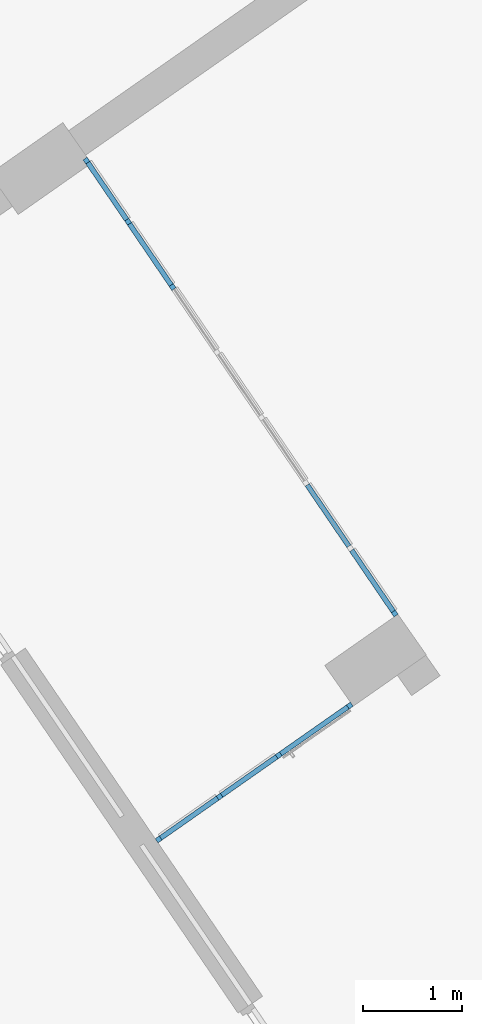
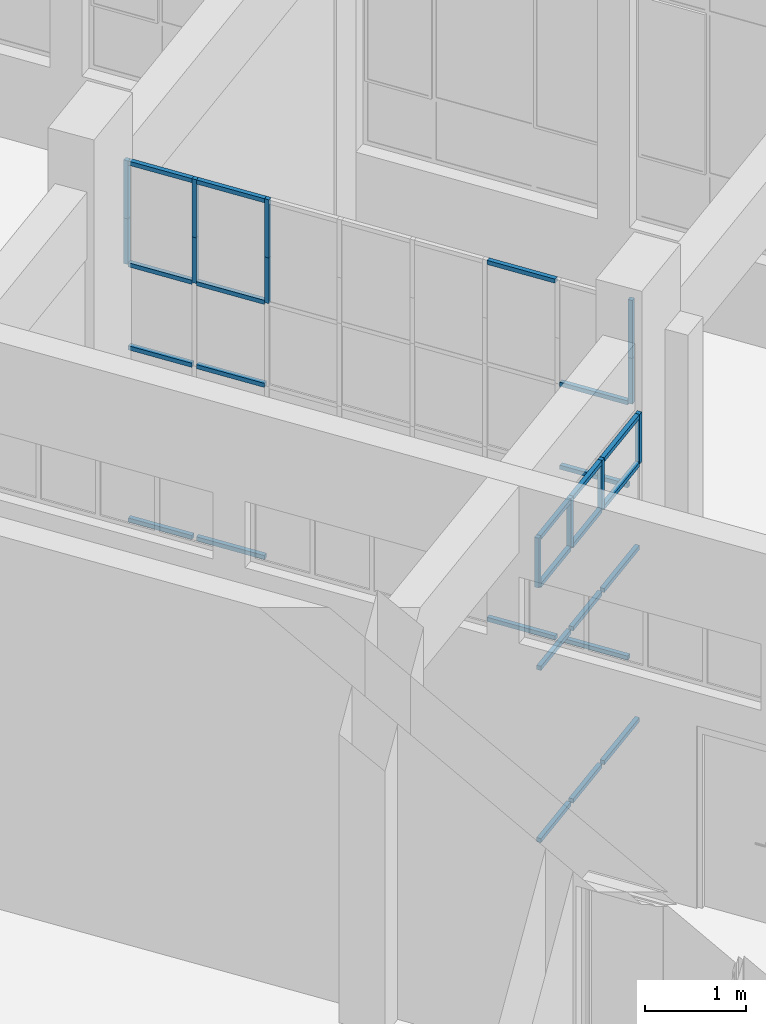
# One storey, part 29 of 157: 37 members, 2 elements without a shape of their own.
"""IFC2X3 building model written with IfcOpenShell, lengths in millimetres."""

from ifc_helpers import new_model, entity, si_unit, converted_unit, derived_unit, direction, frame, origin, origin_2d_with_axis, place, context, subcontext, project, spatial, rectangle, extrude, source, transform, mapped, material, type_object, type_shapes, element, aggregate, save


model = new_model("IFC2X3")

# Units and contexts
model_context = context("Model", 3, precision=0.01, world=origin(), true_north=direction((6.123031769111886e-17, 1.0)))
body_context = subcontext(model_context, "Body", "Model", "MODEL_VIEW")
ifc_project = project(units=[si_unit("LENGTHUNIT", "METRE", prefix="MILLI"), si_unit("AREAUNIT", "SQUARE_METRE"), si_unit("VOLUMEUNIT", "CUBIC_METRE"), converted_unit("PLANEANGLEUNIT", "DEGREE", entity("IfcRatioMeasure", 0.017453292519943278), si_unit("PLANEANGLEUNIT", "RADIAN"), dimensions=[0, 0, 0, 0, 0, 0, 0]), si_unit("MASSUNIT", "GRAM", prefix="KILO"), derived_unit("MASSDENSITYUNIT", [(si_unit("MASSUNIT", "GRAM", prefix="KILO"), 1), (si_unit("LENGTHUNIT", "METRE"), -3)]), derived_unit("MOMENTOFINERTIAUNIT", [(si_unit("LENGTHUNIT", "METRE"), 4)]), si_unit("TIMEUNIT", "SECOND"), si_unit("FREQUENCYUNIT", "HERTZ"), si_unit("THERMODYNAMICTEMPERATUREUNIT", "DEGREE_CELSIUS"), derived_unit("THERMALTRANSMITTANCEUNIT", [(si_unit("MASSUNIT", "GRAM", prefix="KILO"), 1), (si_unit("THERMODYNAMICTEMPERATUREUNIT", "KELVIN"), -1), (si_unit("TIMEUNIT", "SECOND"), -3)]), derived_unit("THERMALCONDUCTANCEUNIT", [(si_unit("MASSUNIT", "GRAM", prefix="KILO"), 1), (si_unit("LENGTHUNIT", "METRE"), 1), (si_unit("THERMODYNAMICTEMPERATUREUNIT", "KELVIN"), -1), (si_unit("TIMEUNIT", "SECOND"), -3)]), derived_unit("VOLUMETRICFLOWRATEUNIT", [(si_unit("LENGTHUNIT", "METRE"), 3), (si_unit("TIMEUNIT", "SECOND"), -1)]), derived_unit("MASSFLOWRATEUNIT", [(si_unit("MASSUNIT", "GRAM", prefix="KILO"), 1), (si_unit("TIMEUNIT", "SECOND"), -1)]), derived_unit("ROTATIONALFREQUENCYUNIT", [(si_unit("TIMEUNIT", "SECOND"), -1)]), si_unit("ELECTRICCURRENTUNIT", "AMPERE"), si_unit("ELECTRICVOLTAGEUNIT", "VOLT"), si_unit("POWERUNIT", "WATT"), converted_unit("FORCEUNIT", "KIP", entity("IfcRatioMeasure", 2.088543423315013e-05), si_unit("FORCEUNIT", "NEWTON"), dimensions=[1, 1, -2, 0, 0, 0, 0]), si_unit("ILLUMINANCEUNIT", "LUX"), si_unit("LUMINOUSFLUXUNIT", "LUMEN"), si_unit("LUMINOUSINTENSITYUNIT", "CANDELA"), derived_unit("USERDEFINED", [(si_unit("MASSUNIT", "GRAM", prefix="KILO"), -1), (si_unit("LENGTHUNIT", "METRE"), -2), (si_unit("TIMEUNIT", "SECOND"), 3), (si_unit("LUMINOUSFLUXUNIT", "LUMEN"), 1)]), derived_unit("USERDEFINED", [(si_unit("MASSUNIT", "GRAM", prefix="KILO"), 1), (si_unit("LENGTHUNIT", "METRE"), 3), (si_unit("TIMEUNIT", "SECOND"), -3), (si_unit("ELECTRICCURRENTUNIT", "AMPERE"), -2)]), derived_unit("USERDEFINED", [(si_unit("LENGTHUNIT", "METRE"), 2), (si_unit("TIMEUNIT", "SECOND"), -2)]), derived_unit("SOUNDPOWERUNIT", [(si_unit("MASSUNIT", "GRAM", prefix="KILO"), 1), (si_unit("LENGTHUNIT", "METRE"), 2), (si_unit("TIMEUNIT", "SECOND"), -3)]), derived_unit("SOUNDPRESSUREUNIT", [(si_unit("MASSUNIT", "GRAM", prefix="KILO"), 1), (si_unit("LENGTHUNIT", "METRE"), -1), (si_unit("TIMEUNIT", "SECOND"), -2)]), derived_unit("LINEARVELOCITYUNIT", [(si_unit("LENGTHUNIT", "METRE"), 1), (si_unit("TIMEUNIT", "SECOND"), -1)]), si_unit("PRESSUREUNIT", "PASCAL"), derived_unit("USERDEFINED", [(si_unit("LENGTHUNIT", "METRE"), -2), (si_unit("MASSUNIT", "GRAM", prefix="KILO"), 1), (si_unit("TIMEUNIT", "SECOND"), -2)]), derived_unit("LINEARFORCEUNIT", [(si_unit("MASSUNIT", "GRAM", prefix="KILO"), 1), (si_unit("LENGTHUNIT", "METRE"), 1), (si_unit("TIMEUNIT", "SECOND"), -2), (si_unit("LENGTHUNIT", "METRE"), -1)]), derived_unit("PLANARFORCEUNIT", [(si_unit("MASSUNIT", "GRAM", prefix="KILO"), 1), (si_unit("LENGTHUNIT", "METRE"), 1), (si_unit("TIMEUNIT", "SECOND"), -2), (si_unit("LENGTHUNIT", "METRE"), -2)]), derived_unit("SPECIFICHEATCAPACITYUNIT", [(si_unit("LENGTHUNIT", "METRE"), 2), (si_unit("TIMEUNIT", "SECOND"), -2), (si_unit("THERMODYNAMICTEMPERATUREUNIT", "KELVIN"), -1)]), derived_unit("VAPORPERMEABILITYUNIT", [(si_unit("TIMEUNIT", "SECOND"), 1), (si_unit("LENGTHUNIT", "METRE"), -1)]), derived_unit("DYNAMICVISCOSITYUNIT", [(si_unit("MASSUNIT", "GRAM", prefix="KILO"), 1), (si_unit("LENGTHUNIT", "METRE"), -1), (si_unit("TIMEUNIT", "SECOND"), -1)]), derived_unit("THERMALEXPANSIONCOEFFICIENTUNIT", [(si_unit("THERMODYNAMICTEMPERATUREUNIT", "KELVIN"), -1)])], contexts=[model_context])

# Site, building, storey
site_placement = place(None, frame((0.0, 0.0, 0.0), z_axis=(0.0, 0.0, 1.0), x_axis=(0.8191520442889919, 0.5735764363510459, 0.0)))
site = spatial("IfcSite", under=ifc_project, at=site_placement, Name="Default", CompositionType="ELEMENT")
building_placement = place(site_placement, origin())
building = spatial("IfcBuilding", under=site, at=building_placement, CompositionType="ELEMENT")
storey_placement = place(building_placement, origin())
storey = spatial("IfcBuildingStorey", under=building, at=storey_placement, Name="1.EG +0.00", CompositionType="ELEMENT", Elevation=-4.331468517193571e-12)

# Curtain wall, members
curtain_wall_type = type_object("IfcCurtainWallType", Name="Curtain Wall:Curtain_Wall_CJC_Int5", PredefinedType="NOTDEFINED")
curtain_wall_1_placement = place(storey_placement, origin())
curtain_wall_1 = element("IfcCurtainWall", 1, at=curtain_wall_1_placement, inside=storey, type_object=curtain_wall_type, Name="Curtain Wall:Curtain_Wall_CJC_Int5", ObjectType="Curtain Wall:Curtain_Wall_CJC_Int5")
ifc_material = material(Name="Aluminium")
member_type_1 = type_object("IfcMemberType", Name="Rectangular Mullion:5x5", PredefinedType="MULLION", material=ifc_material)
shared_shape_1 = source(origin(), body_context, "Body", "SweptSolid", [
    extrude(rectangle(XDim=50.000000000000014, YDim=50.0, at=origin_2d_with_axis()), frame((-25.0, 0.0, -696.4297457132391), z_axis=(0.0, 0.0, 1.0), x_axis=(0.0, -1.0, 0.0)), (0.0, 0.0, 1.0), 696.4297457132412),
])
type_shapes(member_type_1, [shared_shape_1])
member_1_placement = place(curtain_wall_1_placement, frame((-211035.4046825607, 73171.3633481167, 4350.0), z_axis=(0.013317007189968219, 0.9999113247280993, 0.0), x_axis=(0.0, 0.0, 1.0)))
member_1 = element("IfcMember", 2, at=member_1_placement, type_object=member_type_1, material=ifc_material, Name="Rectangular Mullion:5x5", ObjectType="Rectangular Mullion:5x5", context=body_context, shape_type="MappedRepresentation", body=[
    mapped(shared_shape_1, transform((0.0, 0.0, 0.0), scale=1.0)),
])
member_type_2 = type_object("IfcMemberType", Name="Rectangular Mullion:5x5", PredefinedType="MULLION", material=ifc_material)
shared_shape_2 = source(origin(), body_context, "Body", "SweptSolid", [
    extrude(rectangle(XDim=50.000000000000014, YDim=50.0, at=origin_2d_with_axis()), frame((-25.0, 0.0, -746.4297457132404), z_axis=(0.0, 0.0, 1.0), x_axis=(0.0, -1.0, 0.0)), (0.0, 0.0, 1.0), 746.4297457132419),
])
type_shapes(member_type_2, [shared_shape_2])
member_2_placement = place(curtain_wall_1_placement, frame((-211108.3154063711, 67696.84062749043, 0.0), z_axis=(-0.01331700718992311, -0.9999113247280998, 0.0), x_axis=(0.0, 0.0, -1.0)))
member_2 = element("IfcMember", 3, at=member_2_placement, type_object=member_type_2, material=ifc_material, Name="Rectangular Mullion:5x5", ObjectType="Rectangular Mullion:5x5", context=body_context, shape_type="MappedRepresentation", body=[
    mapped(shared_shape_2, transform((0.0, 0.0, 0.0), scale=1.0)),
])
member_3_placement = place(curtain_wall_1_placement, frame((-211055.28510313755, 71678.63623671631, 0.0), z_axis=(-0.013317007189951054, -0.9999113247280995, 0.0), x_axis=(0.0, 0.0, -1.0)))
member_3 = element("IfcMember", 4, at=member_3_placement, type_object=member_type_2, material=ifc_material, Name="Rectangular Mullion:5x5", ObjectType="Rectangular Mullion:5x5", context=body_context, shape_type="MappedRepresentation", body=[
    mapped(shared_shape_2, transform((0.0, 0.0, 0.0), scale=1.0)),
])
member_4_placement = place(curtain_wall_1_placement, frame((-211097.70934572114, 68493.19974957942, 0.0), z_axis=(-0.013317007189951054, -0.9999113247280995, 0.0), x_axis=(0.0, 0.0, -1.0)))
member_4 = element("IfcMember", 5, at=member_4_placement, type_object=member_type_2, material=ifc_material, Name="Rectangular Mullion:5x5", ObjectType="Rectangular Mullion:5x5", context=body_context, shape_type="MappedRepresentation", body=[
    mapped(shared_shape_2, transform((0.0, 0.0, 0.0), scale=1.0)),
])
member_type_3 = type_object("IfcMemberType", Name="Rectangular Mullion:5x5", PredefinedType="MULLION", material=ifc_material)
shared_shape_3 = source(origin(), body_context, "Body", "SweptSolid", [
    extrude(rectangle(XDim=50.000000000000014, YDim=50.0, at=origin_2d_with_axis()), frame((-25.0, 0.0, -700.0), z_axis=(0.0, 0.0, 1.0), x_axis=(0.0, -1.0, 0.0)), (0.0, 0.0, 1.0), 699.9999999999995),
])
type_shapes(member_type_3, [shared_shape_3])
member_5_placement = place(curtain_wall_1_placement, frame((-211108.98125673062, 67646.84506125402, 4350.0), z_axis=(0.0, 0.0, 1.0), x_axis=(-0.013317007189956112, -0.9999113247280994, 0.0)))
member_5 = element("IfcMember", 6, at=member_5_placement, type_object=member_type_3, material=ifc_material, Name="Rectangular Mullion:5x5", ObjectType="Rectangular Mullion:5x5", context=body_context, shape_type="MappedRepresentation", body=[
    mapped(shared_shape_3, transform((0.0, 0.0, 0.0), scale=1.0)),
])
member_type_4 = type_object("IfcMemberType", Name="Rectangular Mullion:5x5", PredefinedType="MULLION", material=ifc_material)
shared_shape_4 = source(origin(), body_context, "Body", "SweptSolid", [
    extrude(rectangle(XDim=50.000000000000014, YDim=50.0, at=origin_2d_with_axis()), frame((-25.0, 0.0, -746.4297454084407), z_axis=(0.0, 0.0, 1.0), x_axis=(0.0, -1.0, 0.0)), (0.0, 0.0, 1.0), 746.4297454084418),
])
type_shapes(member_type_4, [shared_shape_4])
member_6_placement = place(curtain_wall_1_placement, frame((-211045.34489285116, 72424.99979226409, 4350.0), z_axis=(0.013317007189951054, 0.9999113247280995, 0.0), x_axis=(0.0, 0.0, 1.0)))
member_6 = element("IfcMember", 7, at=member_6_placement, type_object=member_type_4, material=ifc_material, Name="Rectangular Mullion:5x5", ObjectType="Rectangular Mullion:5x5", context=body_context, shape_type="MappedRepresentation", body=[
    mapped(shared_shape_4, transform((0.0, 0.0, 0.0), scale=1.0)),
])
member_7_placement = place(curtain_wall_1_placement, frame((-211087.76913543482, 69239.56330512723, 4350.0), z_axis=(0.013317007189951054, 0.9999113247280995, 0.0), x_axis=(0.0, 0.0, 1.0)))
member_7 = element("IfcMember", 8, at=member_7_placement, type_object=member_type_4, material=ifc_material, Name="Rectangular Mullion:5x5", ObjectType="Rectangular Mullion:5x5", context=body_context, shape_type="MappedRepresentation", body=[
    mapped(shared_shape_4, transform((0.0, 0.0, 0.0), scale=1.0)),
])
member_type_5 = type_object("IfcMemberType", Name="Rectangular Mullion:5x5", PredefinedType="MULLION", material=ifc_material)
shared_shape_5 = source(origin(), body_context, "Body", "SweptSolid", [
    extrude(rectangle(XDim=50.0, YDim=50.0, at=origin_2d_with_axis()), frame((-25.0, 0.0, -696.429745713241), z_axis=(0.0, 0.0, 1.0), x_axis=(0.0, -1.0, 0.0)), (0.0, 0.0, 1.0), 696.4297457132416),
])
type_shapes(member_type_5, [shared_shape_5])
member_8_placement = place(curtain_wall_1_placement, frame((-211044.67904249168, 72474.99535850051, 0.0), z_axis=(-0.013317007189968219, -0.9999113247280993, 0.0), x_axis=(0.0, 0.0, -1.0)))
member_8 = element("IfcMember", 9, at=member_8_placement, type_object=member_type_5, material=ifc_material, Name="Rectangular Mullion:5x5", ObjectType="Rectangular Mullion:5x5", context=body_context, shape_type="MappedRepresentation", body=[
    mapped(shared_shape_5, transform((0.0, 0.0, 0.0), scale=1.0)),
])
member_type_6 = type_object("IfcMemberType", Name="Rectangular Mullion:5x5", PredefinedType="MULLION", material=ifc_material)
shared_shape_6 = source(origin(), body_context, "Body", "SweptSolid", [
    extrude(rectangle(XDim=50.0, YDim=50.0, at=origin_2d_with_axis()), frame((-25.0, 0.0, -550.0), z_axis=(0.0, 0.0, 1.0), x_axis=(0.0, -1.0, 0.0)), (0.0, 0.0, 1.0), 550.0000000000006),
])
type_shapes(member_type_6, [shared_shape_6])
member_9_placement = place(curtain_wall_1_placement, frame((-211034.7388322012, 73221.3589143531, 3100.0), z_axis=(0.0, 0.0, -1.0), x_axis=(0.013317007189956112, 0.9999113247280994, 0.0)))
member_9 = element("IfcMember", 10, at=member_9_placement, type_object=member_type_6, material=ifc_material, Name="Rectangular Mullion:5x5", ObjectType="Rectangular Mullion:5x5", context=body_context, shape_type="MappedRepresentation", body=[
    mapped(shared_shape_6, transform((0.0, 0.0, 0.0), scale=1.0)),
])
member_type_7 = type_object("IfcMemberType", Name="Rectangular Mullion:5x5", PredefinedType="MULLION", material=ifc_material)
shared_shape_7 = source(origin(), body_context, "Body", "SweptSolid", [
    extrude(rectangle(XDim=50.0, YDim=50.0, at=origin_2d_with_axis()), frame((-25.0, 0.0, -700.0), z_axis=(0.0, 0.0, 1.0), x_axis=(0.0, -1.0, 0.0)), (0.0, 0.0, 1.0), 699.9999999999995),
])
type_shapes(member_type_7, [shared_shape_7])
member_10_placement = place(curtain_wall_1_placement, frame((-211034.7388322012, 73221.3589143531, 3650.0), z_axis=(0.0, 0.0, -1.0), x_axis=(0.013317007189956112, 0.9999113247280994, 0.0)))
member_10 = element("IfcMember", 11, at=member_10_placement, type_object=member_type_7, material=ifc_material, Name="Rectangular Mullion:5x5", ObjectType="Rectangular Mullion:5x5", context=body_context, shape_type="MappedRepresentation", body=[
    mapped(shared_shape_7, transform((0.0, 0.0, 0.0), scale=1.0)),
])
member_type_8 = type_object("IfcMemberType", Name="Rectangular Mullion:5x5", PredefinedType="MULLION", material=ifc_material)
shared_shape_8 = source(origin(), body_context, "Body", "SweptSolid", [
    extrude(rectangle(XDim=50.000000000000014, YDim=50.0, at=origin_2d_with_axis()), frame((-25.0, 0.0, -550.0), z_axis=(0.0, 0.0, 1.0), x_axis=(0.0, -1.0, 0.0)), (0.0, 0.0, 1.0), 550.0),
])
type_shapes(member_type_8, [shared_shape_8])
member_11_placement = place(curtain_wall_1_placement, frame((-211108.98125673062, 67646.84506125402, 3650.0), z_axis=(0.0, 0.0, 1.0), x_axis=(-0.013317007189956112, -0.9999113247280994, 0.0)))
member_11 = element("IfcMember", 12, at=member_11_placement, type_object=member_type_8, material=ifc_material, Name="Rectangular Mullion:5x5", ObjectType="Rectangular Mullion:5x5", context=body_context, shape_type="MappedRepresentation", body=[
    mapped(shared_shape_8, transform((0.0, 0.0, 0.0), scale=1.0)),
])
member_type_9 = type_object("IfcMemberType", Name="Rectangular Mullion:5x5", PredefinedType="MULLION", material=ifc_material)
shared_shape_9 = source(origin(), body_context, "Body", "SweptSolid", [
    extrude(rectangle(XDim=50.0, YDim=50.0, at=origin_2d_with_axis()), frame((0.0, 0.0, -746.4297457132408), z_axis=(0.0, 0.0, 1.0), x_axis=(0.0, -1.0, 0.0)), (0.0, 0.0, 1.0), 746.4297457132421),
])
type_shapes(member_type_9, [shared_shape_9])
member_12_placement = place(curtain_wall_1_placement, frame((-211098.37519608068, 68443.20418334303, 2100.0), z_axis=(0.01331700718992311, 0.9999113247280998, 0.0), x_axis=(0.0, 0.0, 1.0)))
member_12 = element("IfcMember", 13, at=member_12_placement, type_object=member_type_9, material=ifc_material, Name="Rectangular Mullion:5x5", ObjectType="Rectangular Mullion:5x5", context=body_context, shape_type="MappedRepresentation", body=[
    mapped(shared_shape_9, transform((0.0, 0.0, 0.0), scale=1.0)),
])
member_13_placement = place(curtain_wall_1_placement, frame((-211045.34489285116, 72424.99979226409, 2100.0), z_axis=(0.013317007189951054, 0.9999113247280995, 0.0), x_axis=(0.0, 0.0, 1.0)))
member_13 = element("IfcMember", 14, at=member_13_placement, type_object=member_type_9, material=ifc_material, Name="Rectangular Mullion:5x5", ObjectType="Rectangular Mullion:5x5", context=body_context, shape_type="MappedRepresentation", body=[
    mapped(shared_shape_9, transform((0.0, 0.0, 0.0), scale=1.0)),
])
member_14_placement = place(curtain_wall_1_placement, frame((-211098.37519608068, 68443.20418334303, 3100.0), z_axis=(0.01331700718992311, 0.9999113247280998, 0.0), x_axis=(0.0, 0.0, 1.0)))
member_14 = element("IfcMember", 15, at=member_14_placement, type_object=member_type_9, material=ifc_material, Name="Rectangular Mullion:5x5", ObjectType="Rectangular Mullion:5x5", context=body_context, shape_type="MappedRepresentation", body=[
    mapped(shared_shape_9, transform((0.0, 0.0, 0.0), scale=1.0)),
])
member_15_placement = place(curtain_wall_1_placement, frame((-211045.34489285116, 72424.99979226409, 3100.0), z_axis=(0.013317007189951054, 0.9999113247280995, 0.0), x_axis=(0.0, 0.0, 1.0)))
member_15 = element("IfcMember", 16, at=member_15_placement, type_object=member_type_9, material=ifc_material, Name="Rectangular Mullion:5x5", ObjectType="Rectangular Mullion:5x5", context=body_context, shape_type="MappedRepresentation", body=[
    mapped(shared_shape_9, transform((0.0, 0.0, 0.0), scale=1.0)),
])
member_type_10 = type_object("IfcMemberType", Name="Rectangular Mullion:5x5", PredefinedType="MULLION", material=ifc_material)
shared_shape_10 = source(origin(), body_context, "Body", "SweptSolid", [
    extrude(rectangle(XDim=50.0, YDim=50.0, at=origin_2d_with_axis()), frame((0.0, 0.0, -696.4297457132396), z_axis=(0.0, 0.0, 1.0), x_axis=(0.0, -1.0, 0.0)), (0.0, 0.0, 1.0), 696.4297457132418),
])
type_shapes(member_type_10, [shared_shape_10])
member_16_placement = place(curtain_wall_1_placement, frame((-211035.4046825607, 73171.3633481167, 2100.0), z_axis=(0.013317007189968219, 0.9999113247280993, 0.0), x_axis=(0.0, 0.0, 1.0)))
member_16 = element("IfcMember", 17, at=member_16_placement, type_object=member_type_10, material=ifc_material, Name="Rectangular Mullion:5x5", ObjectType="Rectangular Mullion:5x5", context=body_context, shape_type="MappedRepresentation", body=[
    mapped(shared_shape_10, transform((0.0, 0.0, 0.0), scale=1.0)),
])
member_17_placement = place(curtain_wall_1_placement, frame((-211035.4046825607, 73171.3633481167, 3100.0), z_axis=(0.013317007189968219, 0.9999113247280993, 0.0), x_axis=(0.0, 0.0, 1.0)))
member_17 = element("IfcMember", 18, at=member_17_placement, type_object=member_type_10, material=ifc_material, Name="Rectangular Mullion:5x5", ObjectType="Rectangular Mullion:5x5", context=body_context, shape_type="MappedRepresentation", body=[
    mapped(shared_shape_10, transform((0.0, 0.0, 0.0), scale=1.0)),
])
member_type_11 = type_object("IfcMemberType", Name="Rectangular Mullion:5x5", PredefinedType="MULLION", material=ifc_material)
shared_shape_11 = source(origin(), body_context, "Body", "SweptSolid", [
    extrude(rectangle(XDim=50.0, YDim=50.0, at=origin_2d_with_axis()), frame((0.0, 0.0, -550.0), z_axis=(0.0, 0.0, 1.0), x_axis=(0.0, -1.0, 0.0)), (0.0, 0.0, 1.0), 550.0),
])
type_shapes(member_type_11, [shared_shape_11])
member_18_placement = place(curtain_wall_1_placement, frame((-211055.61802831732, 71653.63845359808, 3100.0), z_axis=(0.0, 0.0, -1.0), x_axis=(0.013317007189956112, 0.9999113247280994, 0.0)))
member_18 = element("IfcMember", 19, at=member_18_placement, type_object=member_type_11, material=ifc_material, Name="Rectangular Mullion:5x5", ObjectType="Rectangular Mullion:5x5", context=body_context, shape_type="MappedRepresentation", body=[
    mapped(shared_shape_11, transform((0.0, 0.0, 0.0), scale=1.0)),
])
member_19_placement = place(curtain_wall_1_placement, frame((-211045.01196767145, 72449.99757538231, 3100.0), z_axis=(0.0, 0.0, -1.0), x_axis=(0.013317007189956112, 0.9999113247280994, 0.0)))
member_19 = element("IfcMember", 20, at=member_19_placement, type_object=member_type_11, material=ifc_material, Name="Rectangular Mullion:5x5", ObjectType="Rectangular Mullion:5x5", context=body_context, shape_type="MappedRepresentation", body=[
    mapped(shared_shape_11, transform((0.0, 0.0, 0.0), scale=1.0)),
])
member_type_12 = type_object("IfcMemberType", Name="Rectangular Mullion:5x5", PredefinedType="MULLION", material=ifc_material)
shared_shape_12 = source(origin(), body_context, "Body", "SweptSolid", [
    extrude(rectangle(XDim=50.0, YDim=50.0, at=origin_2d_with_axis()), frame((0.0, 0.0, -700.0), z_axis=(0.0, 0.0, 1.0), x_axis=(0.0, -1.0, 0.0)), (0.0, 0.0, 1.0), 700.0000000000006),
])
type_shapes(member_type_12, [shared_shape_12])
member_20_placement = place(curtain_wall_1_placement, frame((-211055.61802831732, 71653.63845359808, 3650.0), z_axis=(0.0, 0.0, -1.0), x_axis=(0.013317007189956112, 0.9999113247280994, 0.0)))
member_20 = element("IfcMember", 21, at=member_20_placement, type_object=member_type_12, material=ifc_material, Name="Rectangular Mullion:5x5", ObjectType="Rectangular Mullion:5x5", context=body_context, shape_type="MappedRepresentation", body=[
    mapped(shared_shape_12, transform((0.0, 0.0, 0.0), scale=1.0)),
])
member_21_placement = place(curtain_wall_1_placement, frame((-211045.01196767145, 72449.99757538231, 3650.0), z_axis=(0.0, 0.0, -1.0), x_axis=(0.013317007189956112, 0.9999113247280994, 0.0)))
member_21 = element("IfcMember", 22, at=member_21_placement, type_object=member_type_12, material=ifc_material, Name="Rectangular Mullion:5x5", ObjectType="Rectangular Mullion:5x5", context=body_context, shape_type="MappedRepresentation", body=[
    mapped(shared_shape_12, transform((0.0, 0.0, 0.0), scale=1.0)),
])
aggregate(curtain_wall_1, [member_1, member_2, member_5, member_6, member_3, member_8, member_9, member_10, member_11, member_12, member_13, member_16, member_14, member_15, member_17, member_18, member_19, member_20, member_21, member_4, member_7])

curtain_wall_2_placement = place(storey_placement, origin())
curtain_wall_2 = element("IfcCurtainWall", 23, at=curtain_wall_2_placement, inside=storey, type_object=curtain_wall_type, Name="Curtain Wall:Curtain_Wall_CJC_Int5", ObjectType="Curtain Wall:Curtain_Wall_CJC_Int5")
member_type_13 = type_object("IfcMemberType", Name="Rectangular Mullion:5x5", PredefinedType="MULLION", material=ifc_material)
shared_shape_13 = source(origin(), body_context, "Body", "SweptSolid", [
    extrude(rectangle(XDim=49.99999999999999, YDim=50.0, at=origin_2d_with_axis()), frame((-25.0, 0.0, -701.0338390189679), z_axis=(0.0, 0.0, 1.0), x_axis=(0.0, -1.0, 0.0)), (0.0, 0.0, 1.0), 701.0338390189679),
])
type_shapes(member_type_13, [shared_shape_13])
member_22_placement = place(curtain_wall_2_placement, frame((-214340.28585286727, 67171.35891435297, 0.0), z_axis=(-1.0, 0.0, 0.0), x_axis=(0.0, 0.0, -1.0)))
member_22 = element("IfcMember", 24, at=member_22_placement, type_object=member_type_13, material=ifc_material, Name="Rectangular Mullion:5x5", ObjectType="Rectangular Mullion:5x5", context=body_context, shape_type="MappedRepresentation", body=[
    mapped(shared_shape_13, transform((0.0, 0.0, 0.0), scale=1.0)),
])
member_type_14 = type_object("IfcMemberType", Name="Rectangular Mullion:5x5", PredefinedType="MULLION", material=ifc_material)
shared_shape_14 = source(origin(), body_context, "Body", "SweptSolid", [
    extrude(rectangle(XDim=50.000000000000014, YDim=50.0, at=origin_2d_with_axis()), frame((-25.0, 0.0, -600.0), z_axis=(0.0, 0.0, 1.0), x_axis=(0.0, -1.0, 0.0)), (0.0, 0.0, 1.0), 600.0),
])
type_shapes(member_type_14, [shared_shape_14])
member_23_placement = place(curtain_wall_2_placement, frame((-214390.28585286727, 67171.35891435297, 3700.0), z_axis=(0.0, 0.0, 1.0), x_axis=(-1.0, 0.0, 0.0)))
member_23 = element("IfcMember", 25, at=member_23_placement, type_object=member_type_14, material=ifc_material, Name="Rectangular Mullion:5x5", ObjectType="Rectangular Mullion:5x5", context=body_context, shape_type="MappedRepresentation", body=[
    mapped(shared_shape_14, transform((0.0, 0.0, 0.0), scale=1.0)),
])
member_type_15 = type_object("IfcMemberType", Name="Rectangular Mullion:5x5", PredefinedType="MULLION", material=ifc_material)
shared_shape_15 = source(origin(), body_context, "Body", "SweptSolid", [
    extrude(rectangle(XDim=49.99999999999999, YDim=50.0, at=origin_2d_with_axis()), frame((-25.0, 0.0, -701.0338390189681), z_axis=(0.0, 0.0, 1.0), x_axis=(0.0, -1.0, 0.0)), (0.0, 0.0, 1.0), 701.0338390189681),
])
type_shapes(member_type_15, [shared_shape_15])
member_24_placement = place(curtain_wall_2_placement, frame((-213639.25201384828, 67171.35891435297, 3700.0), z_axis=(1.0, 0.0, 0.0), x_axis=(0.0, 0.0, 1.0)))
member_24 = element("IfcMember", 26, at=member_24_placement, type_object=member_type_15, material=ifc_material, Name="Rectangular Mullion:5x5", ObjectType="Rectangular Mullion:5x5", context=body_context, shape_type="MappedRepresentation", body=[
    mapped(shared_shape_15, transform((0.0, 0.0, 0.0), scale=1.0)),
])
member_type_16 = type_object("IfcMemberType", Name="Rectangular Mullion:5x5", PredefinedType="MULLION", material=ifc_material)
shared_shape_16 = source(origin(), body_context, "Body", "SweptSolid", [
    extrude(rectangle(XDim=50.000000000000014, YDim=50.0, at=origin_2d_with_axis()), frame((-25.0, 0.0, -677.0676777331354), z_axis=(0.0, 0.0, 1.0), x_axis=(0.0, -1.0, 0.0)), (0.0, 0.0, 1.0), 677.0676777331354),
])
type_shapes(member_type_16, [shared_shape_16])
member_25_placement = place(curtain_wall_2_placement, frame((-212912.1843361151, 67171.35891435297, 3700.0), z_axis=(1.0, 0.0, 0.0), x_axis=(0.0, 0.0, 1.0)))
member_25 = element("IfcMember", 27, at=member_25_placement, type_object=member_type_16, material=ifc_material, Name="Rectangular Mullion:5x5", ObjectType="Rectangular Mullion:5x5", context=body_context, shape_type="MappedRepresentation", body=[
    mapped(shared_shape_16, transform((0.0, 0.0, 0.0), scale=1.0)),
])
member_type_17 = type_object("IfcMemberType", Name="Rectangular Mullion:5x5", PredefinedType="MULLION", material=ifc_material)
shared_shape_17 = source(origin(), body_context, "Body", "SweptSolid", [
    extrude(rectangle(XDim=50.000000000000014, YDim=50.0, at=origin_2d_with_axis()), frame((-25.0, 0.0, -677.0676777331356), z_axis=(0.0, 0.0, 1.0), x_axis=(0.0, -1.0, 0.0)), (0.0, 0.0, 1.0), 677.067677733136),
])
type_shapes(member_type_17, [shared_shape_17])
member_26_placement = place(curtain_wall_2_placement, frame((-213589.25201384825, 67171.35891435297, 0.0), z_axis=(-1.0, 0.0, 0.0), x_axis=(0.0, 0.0, -1.0)))
member_26 = element("IfcMember", 28, at=member_26_placement, type_object=member_type_17, material=ifc_material, Name="Rectangular Mullion:5x5", ObjectType="Rectangular Mullion:5x5", context=body_context, shape_type="MappedRepresentation", body=[
    mapped(shared_shape_17, transform((0.0, 0.0, 0.0), scale=1.0)),
])
member_type_18 = type_object("IfcMemberType", Name="Rectangular Mullion:5x5", PredefinedType="MULLION", material=ifc_material)
shared_shape_18 = source(origin(), body_context, "Body", "SweptSolid", [
    extrude(rectangle(XDim=50.0, YDim=50.0, at=origin_2d_with_axis()), frame((-25.0, 0.0, -825.0), z_axis=(0.0, 0.0, 1.0), x_axis=(0.0, -1.0, 0.0)), (0.0, 0.0, 1.0), 825.0),
])
type_shapes(member_type_18, [shared_shape_18])
member_27_placement = place(curtain_wall_2_placement, frame((-212862.18433611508, 67171.35891435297, 0.0), z_axis=(-1.0, 0.0, 0.0), x_axis=(0.0, 0.0, -1.0)))
member_27 = element("IfcMember", 29, at=member_27_placement, type_object=member_type_18, material=ifc_material, Name="Rectangular Mullion:5x5", ObjectType="Rectangular Mullion:5x5", context=body_context, shape_type="MappedRepresentation", body=[
    mapped(shared_shape_18, transform((0.0, 0.0, 0.0), scale=1.0)),
])
member_type_19 = type_object("IfcMemberType", Name="Rectangular Mullion:5x5", PredefinedType="MULLION", material=ifc_material)
shared_shape_19 = source(origin(), body_context, "Body", "SweptSolid", [
    extrude(rectangle(XDim=50.0, YDim=50.0, at=origin_2d_with_axis()), frame((0.0, 0.0, -701.0338390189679), z_axis=(0.0, 0.0, 1.0), x_axis=(0.0, -1.0, 0.0)), (0.0, 0.0, 1.0), 701.0338390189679),
])
type_shapes(member_type_19, [shared_shape_19])
member_28_placement = place(curtain_wall_2_placement, frame((-213639.25201384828, 67171.35891435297, 2100.0), z_axis=(1.0, 0.0, 0.0), x_axis=(0.0, 0.0, 1.0)))
member_28 = element("IfcMember", 30, at=member_28_placement, type_object=member_type_19, material=ifc_material, Name="Rectangular Mullion:5x5", ObjectType="Rectangular Mullion:5x5", context=body_context, shape_type="MappedRepresentation", body=[
    mapped(shared_shape_19, transform((0.0, 0.0, 0.0), scale=1.0)),
])
member_29_placement = place(curtain_wall_2_placement, frame((-213639.25201384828, 67171.35891435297, 3100.0), z_axis=(1.0, 0.0, 0.0), x_axis=(0.0, 0.0, 1.0)))
member_29 = element("IfcMember", 31, at=member_29_placement, type_object=member_type_19, material=ifc_material, Name="Rectangular Mullion:5x5", ObjectType="Rectangular Mullion:5x5", context=body_context, shape_type="MappedRepresentation", body=[
    mapped(shared_shape_19, transform((0.0, 0.0, 0.0), scale=1.0)),
])
member_type_20 = type_object("IfcMemberType", Name="Rectangular Mullion:5x5", PredefinedType="MULLION", material=ifc_material)
shared_shape_20 = source(origin(), body_context, "Body", "SweptSolid", [
    extrude(rectangle(XDim=50.0, YDim=50.0, at=origin_2d_with_axis()), frame((0.0, 0.0, -677.0676777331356), z_axis=(0.0, 0.0, 1.0), x_axis=(0.0, -1.0, 0.0)), (0.0, 0.0, 1.0), 677.067677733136),
])
type_shapes(member_type_20, [shared_shape_20])
member_30_placement = place(curtain_wall_2_placement, frame((-212912.1843361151, 67171.35891435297, 2100.0), z_axis=(1.0, 0.0, 0.0), x_axis=(0.0, 0.0, 1.0)))
member_30 = element("IfcMember", 32, at=member_30_placement, type_object=member_type_20, material=ifc_material, Name="Rectangular Mullion:5x5", ObjectType="Rectangular Mullion:5x5", context=body_context, shape_type="MappedRepresentation", body=[
    mapped(shared_shape_20, transform((0.0, 0.0, 0.0), scale=1.0)),
])
member_31_placement = place(curtain_wall_2_placement, frame((-212912.1843361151, 67171.35891435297, 3100.0), z_axis=(1.0, 0.0, 0.0), x_axis=(0.0, 0.0, 1.0)))
member_31 = element("IfcMember", 33, at=member_31_placement, type_object=member_type_20, material=ifc_material, Name="Rectangular Mullion:5x5", ObjectType="Rectangular Mullion:5x5", context=body_context, shape_type="MappedRepresentation", body=[
    mapped(shared_shape_20, transform((0.0, 0.0, 0.0), scale=1.0)),
])
member_type_21 = type_object("IfcMemberType", Name="Rectangular Mullion:5x5", PredefinedType="MULLION", material=ifc_material)
shared_shape_21 = source(origin(), body_context, "Body", "SweptSolid", [
    extrude(rectangle(XDim=50.0, YDim=50.0, at=origin_2d_with_axis()), frame((0.0, 0.0, -825.0), z_axis=(0.0, 0.0, 1.0), x_axis=(0.0, -1.0, 0.0)), (0.0, 0.0, 1.0), 825.0),
])
type_shapes(member_type_21, [shared_shape_21])
member_32_placement = place(curtain_wall_2_placement, frame((-212037.18433611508, 67171.35891435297, 2100.0), z_axis=(1.0, 0.0, 0.0), x_axis=(0.0, 0.0, 1.0)))
member_32 = element("IfcMember", 34, at=member_32_placement, type_object=member_type_21, material=ifc_material, Name="Rectangular Mullion:5x5", ObjectType="Rectangular Mullion:5x5", context=body_context, shape_type="MappedRepresentation", body=[
    mapped(shared_shape_21, transform((0.0, 0.0, 0.0), scale=1.0)),
])
member_33_placement = place(curtain_wall_2_placement, frame((-212037.18433611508, 67171.35891435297, 3100.0), z_axis=(1.0, 0.0, 0.0), x_axis=(0.0, 0.0, 1.0)))
member_33 = element("IfcMember", 35, at=member_33_placement, type_object=member_type_21, material=ifc_material, Name="Rectangular Mullion:5x5", ObjectType="Rectangular Mullion:5x5", context=body_context, shape_type="MappedRepresentation", body=[
    mapped(shared_shape_21, transform((0.0, 0.0, 0.0), scale=1.0)),
])
member_type_22 = type_object("IfcMemberType", Name="Rectangular Mullion:5x5", PredefinedType="MULLION", material=ifc_material)
shared_shape_22 = source(origin(), body_context, "Body", "SweptSolid", [
    extrude(rectangle(XDim=50.0, YDim=50.0, at=origin_2d_with_axis()), frame((-25.0, 0.0, -825.0), z_axis=(0.0, 0.0, 1.0), x_axis=(0.0, -1.0, 0.0)), (0.0, 0.0, 1.0), 824.9999999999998),
])
type_shapes(member_type_22, [shared_shape_22])
member_34_placement = place(curtain_wall_2_placement, frame((-212037.18433611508, 67171.35891435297, 3700.0), z_axis=(1.0, 0.0, 0.0), x_axis=(0.0, 0.0, 1.0)))
member_34 = element("IfcMember", 36, at=member_34_placement, type_object=member_type_22, material=ifc_material, Name="Rectangular Mullion:5x5", ObjectType="Rectangular Mullion:5x5", context=body_context, shape_type="MappedRepresentation", body=[
    mapped(shared_shape_22, transform((0.0, 0.0, 0.0), scale=1.0)),
])
member_type_23 = type_object("IfcMemberType", Name="Rectangular Mullion:5x5", PredefinedType="MULLION", material=ifc_material)
shared_shape_23 = source(origin(), body_context, "Body", "SweptSolid", [
    extrude(rectangle(XDim=50.0, YDim=50.0, at=origin_2d_with_axis()), frame((-25.0, 0.0, -600.0), z_axis=(0.0, 0.0, 1.0), x_axis=(0.0, -1.0, 0.0)), (0.0, 0.0, 1.0), 600.0),
])
type_shapes(member_type_23, [shared_shape_23])
member_35_placement = place(curtain_wall_2_placement, frame((-211987.18433611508, 67171.35891435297, 3100.0), z_axis=(0.0, 0.0, -1.0), x_axis=(1.0, 0.0, 0.0)))
member_35 = element("IfcMember", 37, at=member_35_placement, type_object=member_type_23, material=ifc_material, Name="Rectangular Mullion:5x5", ObjectType="Rectangular Mullion:5x5", context=body_context, shape_type="MappedRepresentation", body=[
    mapped(shared_shape_23, transform((0.0, 0.0, 0.0), scale=1.0)),
])
member_type_24 = type_object("IfcMemberType", Name="Rectangular Mullion:5x5", PredefinedType="MULLION", material=ifc_material)
shared_shape_24 = source(origin(), body_context, "Body", "SweptSolid", [
    extrude(rectangle(XDim=50.0, YDim=50.0, at=origin_2d_with_axis()), frame((0.0, 0.0, -600.0), z_axis=(0.0, 0.0, 1.0), x_axis=(0.0, -1.0, 0.0)), (0.0, 0.0, 1.0), 600.0),
])
type_shapes(member_type_24, [shared_shape_24])
member_36_placement = place(curtain_wall_2_placement, frame((-213614.25201384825, 67171.35891435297, 3100.0), z_axis=(0.0, 0.0, -1.0), x_axis=(1.0, 0.0, 0.0)))
member_36 = element("IfcMember", 38, at=member_36_placement, type_object=member_type_24, material=ifc_material, Name="Rectangular Mullion:5x5", ObjectType="Rectangular Mullion:5x5", context=body_context, shape_type="MappedRepresentation", body=[
    mapped(shared_shape_24, transform((0.0, 0.0, 0.0), scale=1.0)),
])
member_37_placement = place(curtain_wall_2_placement, frame((-212887.18433611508, 67171.35891435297, 3100.0), z_axis=(0.0, 0.0, -1.0), x_axis=(1.0, 0.0, 0.0)))
member_37 = element("IfcMember", 39, at=member_37_placement, type_object=member_type_24, material=ifc_material, Name="Rectangular Mullion:5x5", ObjectType="Rectangular Mullion:5x5", context=body_context, shape_type="MappedRepresentation", body=[
    mapped(shared_shape_24, transform((0.0, 0.0, 0.0), scale=1.0)),
])
aggregate(curtain_wall_2, [member_22, member_23, member_24, member_25, member_26, member_27, member_28, member_30, member_32, member_34, member_35, member_36, member_37, member_29, member_31, member_33])

save(model, "model.ifc")
